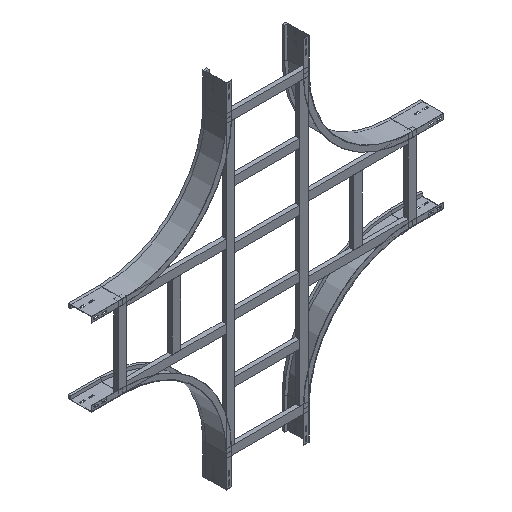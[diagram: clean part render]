
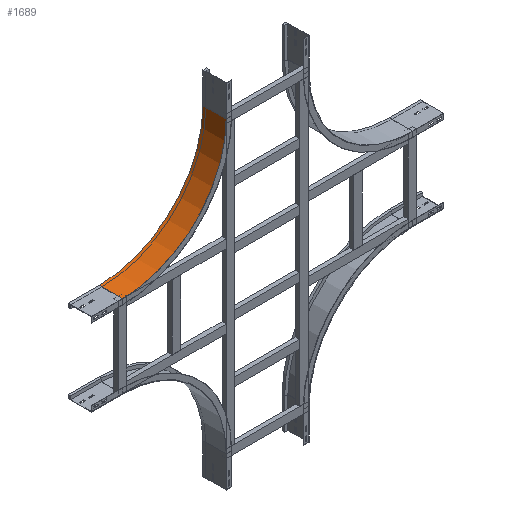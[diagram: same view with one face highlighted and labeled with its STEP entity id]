
A CAD part, isometric view. The second image highlights one B-rep face of the part: STEP entity #1689.
In plain terms, the highlighted cylindrical face has radius 500 mm (diameter 1000 mm), a partial arc.
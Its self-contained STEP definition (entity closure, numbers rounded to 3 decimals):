
#182 = CARTESIAN_POINT ( 'NONE',  ( 0., 0., -150. ) ) ;
#297 = LINE ( 'NONE', #1648, #2669 ) ;
#355 = ORIENTED_EDGE ( 'NONE', *, *, #1221, .T. ) ;
#433 = DIRECTION ( 'NONE',  ( 0., -1., 0. ) ) ;
#484 = DIRECTION ( 'NONE',  ( -1., 0., 0. ) ) ;
#663 = DIRECTION ( 'NONE',  ( 0., -1., 0. ) ) ;
#667 = VECTOR ( 'NONE', #2346, 1000. ) ;
#689 = CARTESIAN_POINT ( 'NONE',  ( 500., 0., -150. ) ) ;
#738 = EDGE_CURVE ( 'NONE', #1262, #2651, #963, .T. ) ;
#747 = AXIS2_PLACEMENT_3D ( 'NONE', #2277, #663, #484 ) ;
#784 = LINE ( 'NONE', #2552, #667 ) ;
#793 = DIRECTION ( 'NONE',  ( -1., 0., 0. ) ) ;
#807 = CARTESIAN_POINT ( 'NONE',  ( 500., 112.5, -650. ) ) ;
#895 = DIRECTION ( 'NONE',  ( 0., 0., -1. ) ) ;
#963 = CIRCLE ( 'NONE', #2291, 500. ) ;
#1031 = CARTESIAN_POINT ( 'NONE',  ( 500., 112.5, -150. ) ) ;
#1037 = EDGE_CURVE ( 'NONE', #1493, #2651, #297, .T. ) ;
#1221 = EDGE_CURVE ( 'NONE', #2798, #1493, #1885, .T. ) ;
#1262 = VERTEX_POINT ( 'NONE', #2290 ) ;
#1269 = AXIS2_PLACEMENT_3D ( 'NONE', #689, #433, #895 ) ;
#1381 = EDGE_LOOP ( 'NONE', ( #1538, #2224, #355, #2153 ) ) ;
#1463 = DIRECTION ( 'NONE',  ( 0., -1., 0. ) ) ;
#1493 = VERTEX_POINT ( 'NONE', #1950 ) ;
#1538 = ORIENTED_EDGE ( 'NONE', *, *, #738, .F. ) ;
#1648 = CARTESIAN_POINT ( 'NONE',  ( 500., 0., -650. ) ) ;
#1689 = ADVANCED_FACE ( 'NONE', ( #2466 ), #2702, .F. ) ;
#1885 = CIRCLE ( 'NONE', #747, 500. ) ;
#1902 = EDGE_CURVE ( 'NONE', #2798, #1262, #784, .T. ) ;
#1950 = CARTESIAN_POINT ( 'NONE',  ( 500., 0., -650. ) ) ;
#2153 = ORIENTED_EDGE ( 'NONE', *, *, #1037, .T. ) ;
#2224 = ORIENTED_EDGE ( 'NONE', *, *, #1902, .F. ) ;
#2277 = CARTESIAN_POINT ( 'NONE',  ( 500., 0., -150. ) ) ;
#2290 = CARTESIAN_POINT ( 'NONE',  ( 0., 112.5, -150. ) ) ;
#2291 = AXIS2_PLACEMENT_3D ( 'NONE', #1031, #1463, #793 ) ;
#2332 = DIRECTION ( 'NONE',  ( 0., 1., 0. ) ) ;
#2346 = DIRECTION ( 'NONE',  ( 0., 1., 0. ) ) ;
#2466 = FACE_OUTER_BOUND ( 'NONE', #1381, .T. ) ;
#2552 = CARTESIAN_POINT ( 'NONE',  ( 0., 0., -150. ) ) ;
#2651 = VERTEX_POINT ( 'NONE', #807 ) ;
#2669 = VECTOR ( 'NONE', #2332, 1000. ) ;
#2702 = CYLINDRICAL_SURFACE ( 'NONE', #1269, 500. ) ;
#2798 = VERTEX_POINT ( 'NONE', #182 ) ;
